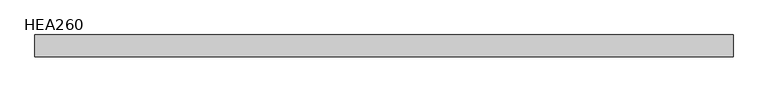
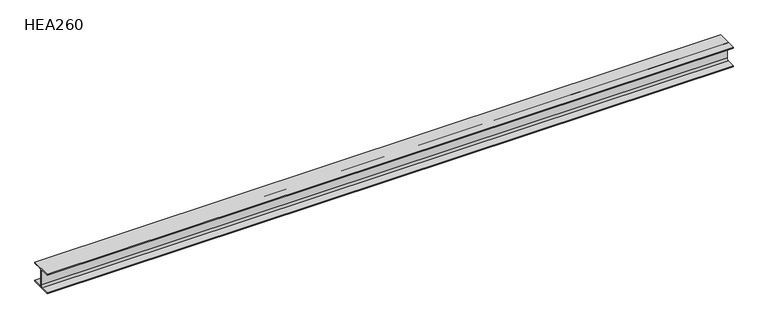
"""IFC4 building model written with IfcOpenShell, lengths in millimetres: beam geometry, HE-A : HEA260."""

import ifcopenshell
import ifcopenshell.guid

model = None  # the IFC model being written
_history = None  # IfcOwnerHistory: only IFC2X3 demands one
_inside = {}  # id of a spatial element -> (the spatial element, [elements in it])
_under = {}  # id of a project, library or spatial element -> (it, [spatial elements below it])
_declared = {}  # id of a project -> (the project, [libraries it declares])
_typed = {}  # id of a type object -> (the type object, [elements of that type])
_made_of = {}  # id of a material, layer set ... -> (it, [elements and type objects made of it])


def new_model(schema):
    """Start an empty IFC model of exactly this schema.

    Asked for "IFC4X3", IfcOpenShell would pick the latest addendum, in which some entities
    have other attributes; the version numbers below select the first issue.
    IFC2X3 requires an IfcOwnerHistory on every rooted entity: one is made here for all.
    """
    global model, _history
    if schema == "IFC4X3":
        model = ifcopenshell.file(schema_version=(4, 3, 0, 0))
    else:
        model = ifcopenshell.file(schema=schema)
    _inside.clear()
    _under.clear()
    _declared.clear()
    _typed.clear()
    _made_of.clear()
    _history = None
    if model.schema == "IFC2X3":
        org = make("IfcOrganization", Name="unknown")
        user = make(
            "IfcPersonAndOrganization",
            ThePerson=make("IfcPerson", FamilyName="unknown"),
            TheOrganization=org,
        )
        app = make(
            "IfcApplication",
            ApplicationDeveloper=org,
            Version="unknown",
            ApplicationFullName="unknown",
            ApplicationIdentifier="unknown",
        )
        _history = make(
            "IfcOwnerHistory",
            OwningUser=user,
            OwningApplication=app,
            ChangeAction="ADDED",
            CreationDate=0,
        )
    return model


def make(cls, **values):
    """One entity of the class cls with the attributes given. An attribute that is None is left unset."""
    return model.create_entity(
        cls, **{name: value for name, value in values.items() if value is not None}
    )


def rooted(cls, **values):
    """An entity with a GlobalId (a new one), such as an element, a storey or a relation."""
    return make(cls, GlobalId=ifcopenshell.guid.new(), OwnerHistory=_history, **values)


def si_unit(unit_type, name, prefix=None):
    """IfcSIUnit, for example si_unit("LENGTHUNIT", "METRE", prefix="MILLI")."""
    return make("IfcSIUnit", UnitType=unit_type, Prefix=prefix, Name=name)


def assignment(units):
    """IfcUnitAssignment: the units of a project."""
    return None if units is None else make("IfcUnitAssignment", Units=units)


def point(xyz):
    """IfcCartesianPoint."""
    return None if xyz is None else make("IfcCartesianPoint", Coordinates=xyz)


def direction(xyz):
    """IfcDirection."""
    return None if xyz is None else make("IfcDirection", DirectionRatios=xyz)


def frame(location, z_axis=None, x_axis=None):
    """IfcAxis2Placement3D, a coordinate frame: its origin and axes. An axis left out is left unset."""
    return make(
        "IfcAxis2Placement3D",
        Location=point(location),
        Axis=direction(z_axis),
        RefDirection=direction(x_axis),
    )


def frame_2d(location, x_axis=None):
    """IfcAxis2Placement2D, a coordinate frame in the plane: its origin and x axis."""
    return make(
        "IfcAxis2Placement2D", Location=point(location), RefDirection=direction(x_axis)
    )


def origin():
    """The frame at (0, 0, 0) with its axes left unset."""
    return frame((0.0, 0.0, 0.0))


def place(relative_to, where):
    """IfcLocalPlacement: puts the frame where relative to a parent placement (None: the world)."""
    return make(
        "IfcLocalPlacement", PlacementRelTo=relative_to, RelativePlacement=where
    )


def context(
    kind, dimensions, precision=None, world=None, true_north=None, identifier=None
):
    """IfcGeometricRepresentationContext, for example the 3D "Model" context."""
    return make(
        "IfcGeometricRepresentationContext",
        ContextIdentifier=identifier,
        ContextType=kind,
        CoordinateSpaceDimension=dimensions,
        Precision=precision,
        WorldCoordinateSystem=world,
        TrueNorth=true_north,
    )


def project(units=None, contexts=None):
    """IfcProject with its units and contexts."""
    return rooted(
        "IfcProject",
        Name="project",
        RepresentationContexts=contexts,
        UnitsInContext=assignment(units),
    )


def spatial(cls, under=None, at=None, **own):
    """A site, building, storey or space (cls), placed at a placement, below another one or the project."""
    s = rooted(cls, ObjectPlacement=at, **own)
    if under is not None:
        _under.setdefault(under.id(), (under, []))[1].append(s)
    return s


def polyline(points):
    """IfcPolyline through the points."""
    return make("IfcPolyline", Points=[point(p) for p in points])


def circle_curve(where, radius):
    """IfcCircle in the frame where."""
    return make("IfcCircle", Position=where, Radius=radius)


def trimmed(basis, trim1, trim2, sense, master):
    """IfcTrimmedCurve: the piece of a basis curve between two trims."""
    return make(
        "IfcTrimmedCurve",
        BasisCurve=basis,
        Trim1=trim1,
        Trim2=trim2,
        SenseAgreement=sense,
        MasterRepresentation=master,
    )


def segment(curve, same_sense, transition):
    """IfcCompositeCurveSegment."""
    return make(
        "IfcCompositeCurveSegment",
        Transition=transition,
        SameSense=same_sense,
        ParentCurve=curve,
    )


def composite_curve(segments, self_intersect=None):
    """IfcCompositeCurve: segments joined end to end."""
    return make("IfcCompositeCurve", Segments=segments, SelfIntersect=self_intersect)


def outline(outer, holes=None, kind="AREA"):
    """IfcArbitraryClosedProfileDef: a profile drawn as a closed curve; with holes, ...WithVoids."""
    if holes is None:
        return make("IfcArbitraryClosedProfileDef", ProfileType=kind, OuterCurve=outer)
    return make(
        "IfcArbitraryProfileDefWithVoids",
        ProfileType=kind,
        OuterCurve=outer,
        InnerCurves=holes,
    )


def extrude(swept, where, along, depth):
    """IfcExtrudedAreaSolid: the profile swept, set in the frame where, extruded along a direction by depth."""
    return make(
        "IfcExtrudedAreaSolid",
        SweptArea=swept,
        Position=where,
        ExtrudedDirection=direction(along),
        Depth=depth,
    )


def shape(context_of_items, identifier, shape_type, items):
    """IfcShapeRepresentation: the items that make up one representation, for example the "Body"."""
    return make(
        "IfcShapeRepresentation",
        ContextOfItems=context_of_items,
        RepresentationIdentifier=identifier,
        RepresentationType=shape_type,
        Items=items,
    )


def source(mapping_origin, context_of_items, identifier, shape_type, items):
    """IfcRepresentationMap: a shape defined once, which mapped items show again and again."""
    return make(
        "IfcRepresentationMap",
        MappingOrigin=mapping_origin,
        MappedRepresentation=shape(context_of_items, identifier, shape_type, items),
    )


def transform(
    local_origin,
    x_axis=None,
    y_axis=None,
    z_axis=None,
    scale=None,
    scale2=None,
    scale3=None,
    uniform=True,
):
    """IfcCartesianTransformationOperator3D, or its non-uniform kind. x_axis, y_axis, z_axis: its Axis1, 2, 3."""
    if uniform:
        return make(
            "IfcCartesianTransformationOperator3D",
            Axis1=direction(x_axis),
            Axis2=direction(y_axis),
            LocalOrigin=point(local_origin),
            Scale=scale,
            Axis3=direction(z_axis),
        )
    return make(
        "IfcCartesianTransformationOperator3DnonUniform",
        Axis1=direction(x_axis),
        Axis2=direction(y_axis),
        LocalOrigin=point(local_origin),
        Scale=scale,
        Axis3=direction(z_axis),
        Scale2=scale2,
        Scale3=scale3,
    )


def mapped(mapping_source, mapping_target):
    """IfcMappedItem: shows the shape of a source again, moved by a transform."""
    return make(
        "IfcMappedItem", MappingSource=mapping_source, MappingTarget=mapping_target
    )


def made_of(thing, what):
    """Note that an element or type object is made of a material, layer set ...; save() writes the relation."""
    if what is not None:
        _made_of.setdefault(what.id(), (what, []))[1].append(thing)
    return thing


def element(
    cls,
    number,
    at=None,
    inside=None,
    cuts=None,
    type_object=None,
    material=None,
    context=None,
    identifier="Body",
    shape_type=None,
    held_by="IfcProductDefinitionShape",
    body=None,
    shapes=None,
    **own,
):
    """One element of the class cls, such as IfcWall. Its Tag is "e" and its number.

    at: its placement. inside: the storey or other place that contains it. cuts: it is an
    opening in that element (IfcRelVoidsElement). A single representation is given by context,
    identifier, shape_type and body (its items); several are given by shapes. held_by: the class
    of the entity that holds the representations. save() writes the other relations.
    """
    e = rooted(cls, Tag="e%d" % number, ObjectPlacement=at, **own)
    if body is not None:
        shapes = [shape(context, identifier, shape_type, body)]
    if shapes is not None:
        e.Representation = make(held_by, Representations=shapes)
    if inside is not None:
        _inside.setdefault(inside.id(), (inside, []))[1].append(e)
    if cuts is not None:
        rooted(
            "IfcRelVoidsElement", RelatingBuildingElement=cuts, RelatedOpeningElement=e
        )
    if type_object is not None:
        _typed.setdefault(type_object.id(), (type_object, []))[1].append(e)
    return made_of(e, material)


def aggregate(whole, parts):
    """IfcRelAggregates: a whole, such as a stair, and the parts it consists of."""
    return rooted("IfcRelAggregates", RelatingObject=whole, RelatedObjects=parts)


def save(model, path):
    """Write the relations noted so far, then the file.

    IfcRelAggregates (storeys below a building ...), IfcRelContainedInSpatialStructure (elements
    in a storey), IfcRelDefinesByType, IfcRelAssociatesMaterial and IfcRelDeclares: one each for
    every whole, place, type object, material and project.
    """
    for whole, parts in _under.values():
        aggregate(whole, parts)
    for where, things in _inside.values():
        rooted(
            "IfcRelContainedInSpatialStructure",
            RelatedElements=things,
            RelatingStructure=where,
        )
    for kind, things in _typed.values():
        rooted("IfcRelDefinesByType", RelatedObjects=things, RelatingType=kind)
    for what, things in _made_of.values():
        rooted("IfcRelAssociatesMaterial", RelatedObjects=things, RelatingMaterial=what)
    for by, libraries in _declared.values():
        rooted("IfcRelDeclares", RelatingContext=by, RelatedDefinitions=libraries)
    model.write(path)


def hea260_34e03afc(model_context):
    return source(origin(), model_context, "Body", "SweptSolid", [
        extrude(outline(composite_curve([segment(polyline([(130.0, -112.5), (130.0, -125.0), (-130.0, -125.0), (-130.0, -112.5), (-27.75, -112.5)]), True, "CONTINUOUS"), segment(trimmed(circle_curve(frame_2d((-27.75, -88.5)), 24.0), [point((-27.75, -112.5))], [point((-3.75, -88.5))], True, "CARTESIAN"), True, "CONTINUOUS"), segment(polyline([(-3.75, -88.5), (-3.75, 88.5)]), True, "CONTINUOUS"), segment(trimmed(circle_curve(frame_2d((-27.75, 88.5)), 24.0), [point((-3.75, 88.5))], [point((-27.75, 112.5))], True, "CARTESIAN"), True, "CONTINUOUS"), segment(polyline([(-27.75, 112.5), (-130.0, 112.5), (-130.0, 125.0), (130.0, 125.0), (130.0, 112.5), (27.75, 112.5)]), True, "CONTINUOUS"), segment(trimmed(circle_curve(frame_2d((27.75, 88.5)), 24.0), [point((27.75, 112.5))], [point((3.75, 88.5))], True, "CARTESIAN"), True, "CONTINUOUS"), segment(polyline([(3.75, 88.5), (3.75, -88.5)]), True, "CONTINUOUS"), segment(trimmed(circle_curve(frame_2d((27.75, -88.5)), 24.0), [point((3.75, -88.5))], [point((27.75, -112.5))], True, "CARTESIAN"), True, "CONTINUOUS"), segment(polyline([(27.75, -112.5), (130.0, -112.5)]), True, "CONTINUOUS")], self_intersect=False)), frame((-4122.2, 0.0, 0.0), z_axis=(1.0, 0.0, 0.0), x_axis=(0.0, 1.0, 0.0)), (0.0, 0.0, 1.0), 8359.1),
    ])


if __name__ == "__main__":
    model = new_model("IFC4")
    model_context = context("Model", 3, world=origin())
    ifc_project = project(units=[si_unit("LENGTHUNIT", "METRE", prefix="MILLI")], contexts=[model_context])
    site = spatial("IfcSite", under=ifc_project)
    building = spatial("IfcBuilding", under=site)
    placement = place(None, origin())
    hea260_shape = hea260_34e03afc(model_context)
    element("IfcBeam", 1, ObjectType="HE-A : HEA260", at=placement, inside=building, context=model_context, shape_type="MappedRepresentation", body=[
        mapped(hea260_shape, transform((0.0, 0.0, 0.0), x_axis=(1.0, 0.0, 0.0), y_axis=(0.0, 1.0, 0.0), z_axis=(0.0, 0.0, 1.0))),
    ])
    save(model, "model.ifc")
